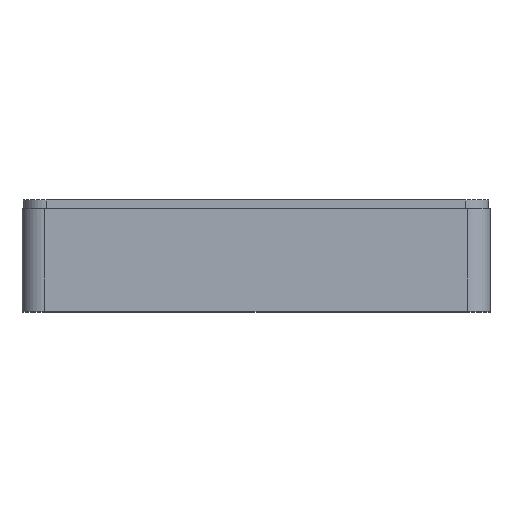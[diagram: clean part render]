
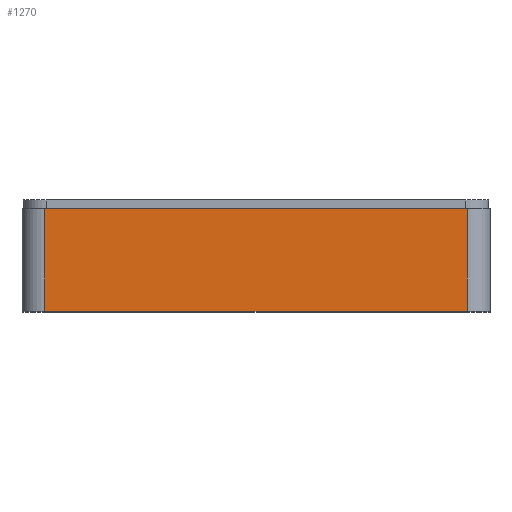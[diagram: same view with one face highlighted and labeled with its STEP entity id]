
A CAD part, top view. The second image highlights one B-rep face of the part: STEP entity #1270.
In plain terms, the highlighted planar face has unit normal (0, 0, 1).
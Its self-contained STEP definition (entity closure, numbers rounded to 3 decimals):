
#261=DIRECTION('',(-1.,0.,0.));
#262=VECTOR('',#261,74.);
#263=CARTESIAN_POINT('',(37.,0.,0.));
#264=LINE('',#263,#262);
#461=DIRECTION('',(0.,1.,0.));
#462=VECTOR('',#461,18.);
#463=CARTESIAN_POINT('',(-37.,0.,0.));
#464=LINE('',#463,#462);
#469=DIRECTION('',(-1.,0.,0.));
#470=VECTOR('',#469,74.);
#471=CARTESIAN_POINT('',(37.,18.,0.));
#472=LINE('',#471,#470);
#477=DIRECTION('',(0.,-1.,0.));
#478=VECTOR('',#477,18.);
#479=CARTESIAN_POINT('',(37.,18.,0.));
#480=LINE('',#479,#478);
#739=CARTESIAN_POINT('',(37.,18.,0.));
#740=CARTESIAN_POINT('',(37.,0.,0.));
#741=VERTEX_POINT('',#739);
#742=VERTEX_POINT('',#740);
#816=CARTESIAN_POINT('',(-37.,18.,0.));
#818=VERTEX_POINT('',#816);
#875=CARTESIAN_POINT('',(-37.,0.,0.));
#876=VERTEX_POINT('',#875);
#1258=CARTESIAN_POINT('',(-41.,18.,0.));
#1259=DIRECTION('',(0.,0.,-1.));
#1260=DIRECTION('',(-1.,0.,0.));
#1261=AXIS2_PLACEMENT_3D('',#1258,#1259,#1260);
#1262=PLANE('',#1261);
#1263=ORIENTED_EDGE('',*,*,#1094,.T.);
#1264=ORIENTED_EDGE('',*,*,#1251,.T.);
#1265=ORIENTED_EDGE('',*,*,#950,.F.);
#1267=ORIENTED_EDGE('',*,*,#1266,.T.);
#1268=EDGE_LOOP('',(#1263,#1264,#1265,#1267));
#1269=FACE_OUTER_BOUND('',#1268,.F.);
#1270=ADVANCED_FACE('',(#1269),#1262,.F.);
#950=EDGE_CURVE('',#741,#818,#472,.T.);
#1094=EDGE_CURVE('',#742,#876,#264,.T.);
#1251=EDGE_CURVE('',#876,#818,#464,.T.);
#1266=EDGE_CURVE('',#741,#742,#480,.T.);
